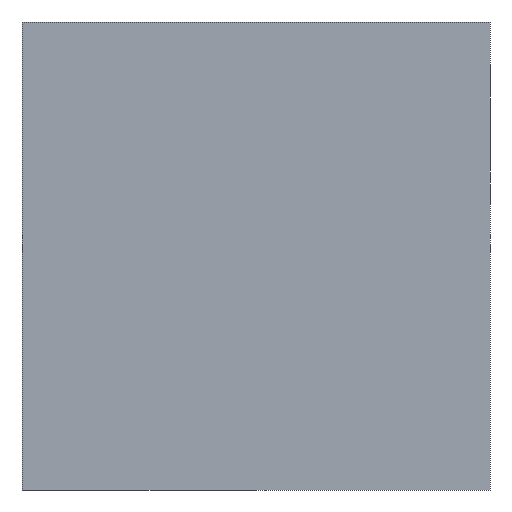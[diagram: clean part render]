
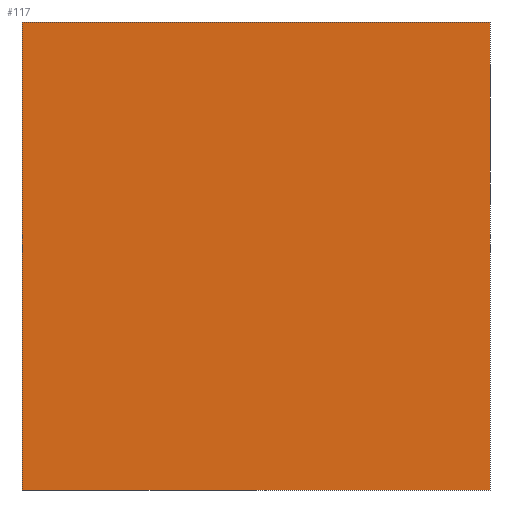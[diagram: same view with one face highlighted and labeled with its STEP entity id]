
A CAD part, left-side view. The second image highlights one B-rep face of the part: STEP entity #117.
In plain terms, the highlighted planar face has unit normal (-1, 0, 0).
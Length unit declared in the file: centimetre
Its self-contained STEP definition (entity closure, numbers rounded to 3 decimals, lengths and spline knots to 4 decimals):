
#13 = DIRECTION ( 'NONE',  ( 0., 0., -1. ) ) ;
#98 = VECTOR ( 'NONE', #13, 100. ) ;
#117 = ADVANCED_FACE ( 'NONE', ( #365 ), #925, .F. ) ;
#121 = EDGE_CURVE ( 'NONE', #366, #559, #994, .T. ) ;
#122 = CARTESIAN_POINT ( 'NONE',  ( 0., 1000., 1000. ) ) ;
#137 = CARTESIAN_POINT ( 'NONE',  ( 0., 1000., 1000. ) ) ;
#188 = LINE ( 'NONE', #539, #702 ) ;
#265 = CARTESIAN_POINT ( 'NONE',  ( 0., 0., 1000. ) ) ;
#293 = EDGE_CURVE ( 'NONE', #361, #964, #578, .T. ) ;
#361 = VERTEX_POINT ( 'NONE', #853 ) ;
#365 = FACE_OUTER_BOUND ( 'NONE', #1029, .T. ) ;
#366 = VERTEX_POINT ( 'NONE', #380 ) ;
#380 = CARTESIAN_POINT ( 'NONE',  ( 0., 1000., 1000. ) ) ;
#484 = ORIENTED_EDGE ( 'NONE', *, *, #293, .T. ) ;
#539 = CARTESIAN_POINT ( 'NONE',  ( 0., 1000., 1000. ) ) ;
#551 = AXIS2_PLACEMENT_3D ( 'NONE', #122, #733, #1073 ) ;
#559 = VERTEX_POINT ( 'NONE', #265 ) ;
#567 = DIRECTION ( 'NONE',  ( 0., -1., 0. ) ) ;
#569 = ORIENTED_EDGE ( 'NONE', *, *, #121, .F. ) ;
#578 = LINE ( 'NONE', #748, #929 ) ;
#594 = EDGE_CURVE ( 'NONE', #366, #361, #188, .T. ) ;
#650 = CARTESIAN_POINT ( 'NONE',  ( 0., 0., 1000. ) ) ;
#696 = CARTESIAN_POINT ( 'NONE',  ( 0., 0., 0. ) ) ;
#702 = VECTOR ( 'NONE', #905, 100. ) ;
#705 = ORIENTED_EDGE ( 'NONE', *, *, #1130, .F. ) ;
#733 = DIRECTION ( 'NONE',  ( 1., 0., 0. ) ) ;
#748 = CARTESIAN_POINT ( 'NONE',  ( 0., 1000., 0. ) ) ;
#817 = LINE ( 'NONE', #650, #98 ) ;
#840 = DIRECTION ( 'NONE',  ( 0., -1., 0. ) ) ;
#853 = CARTESIAN_POINT ( 'NONE',  ( 0., 1000., 0. ) ) ;
#905 = DIRECTION ( 'NONE',  ( 0., 0., -1. ) ) ;
#925 = PLANE ( 'NONE',  #551 ) ;
#929 = VECTOR ( 'NONE', #840, 100. ) ;
#964 = VERTEX_POINT ( 'NONE', #696 ) ;
#994 = LINE ( 'NONE', #137, #1071 ) ;
#1029 = EDGE_LOOP ( 'NONE', ( #484, #705, #569, #1090 ) ) ;
#1071 = VECTOR ( 'NONE', #567, 100. ) ;
#1073 = DIRECTION ( 'NONE',  ( 0., 0., -1. ) ) ;
#1090 = ORIENTED_EDGE ( 'NONE', *, *, #594, .T. ) ;
#1130 = EDGE_CURVE ( 'NONE', #559, #964, #817, .T. ) ;
